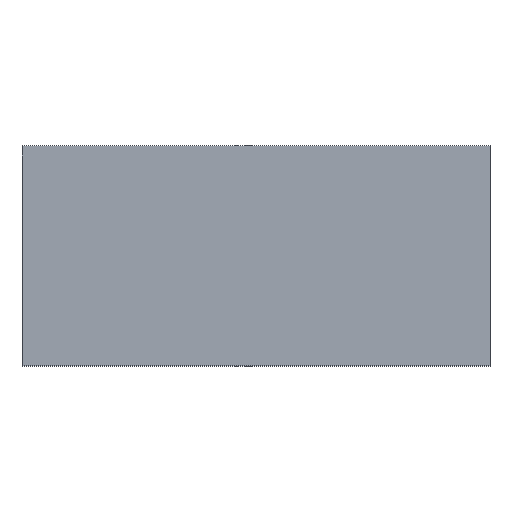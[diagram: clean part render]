
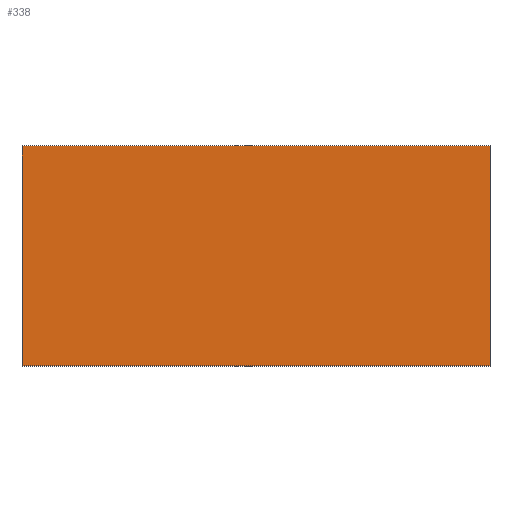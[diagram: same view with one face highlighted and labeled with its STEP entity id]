
A CAD part, top view. The second image highlights one B-rep face of the part: STEP entity #338.
In plain terms, the highlighted planar face has unit normal (0, 0, 1).
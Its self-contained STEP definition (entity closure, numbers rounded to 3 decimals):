
#24 = VERTEX_POINT('',#25);
#25 = CARTESIAN_POINT('',(-3.16,-1.485,1.14));
#32 = PLANE('',#33);
#33 = AXIS2_PLACEMENT_3D('',#34,#35,#36);
#34 = CARTESIAN_POINT('',(-3.16,-1.485,0.));
#35 = DIRECTION('',(1.,0.,-0.));
#36 = DIRECTION('',(0.,0.,1.));
#44 = PLANE('',#45);
#45 = AXIS2_PLACEMENT_3D('',#46,#47,#48);
#46 = CARTESIAN_POINT('',(-3.16,-1.485,0.));
#47 = DIRECTION('',(-0.,1.,0.));
#48 = DIRECTION('',(0.,0.,1.));
#85 = VERTEX_POINT('',#86);
#86 = CARTESIAN_POINT('',(-3.16,1.485,1.14));
#100 = PLANE('',#101);
#101 = AXIS2_PLACEMENT_3D('',#102,#103,#104);
#102 = CARTESIAN_POINT('',(-3.16,1.485,0.));
#103 = DIRECTION('',(-0.,1.,0.));
#104 = DIRECTION('',(0.,0.,1.));
#112 = EDGE_CURVE('',#24,#85,#113,.T.);
#113 = SURFACE_CURVE('',#114,(#118,#125),.PCURVE_S1.);
#114 = LINE('',#115,#116);
#115 = CARTESIAN_POINT('',(-3.16,-1.485,1.14));
#116 = VECTOR('',#117,1.);
#117 = DIRECTION('',(-0.,1.,0.));
#118 = PCURVE('',#32,#119);
#119 = DEFINITIONAL_REPRESENTATION('',(#120),#124);
#120 = LINE('',#121,#122);
#121 = CARTESIAN_POINT('',(1.14,0.));
#122 = VECTOR('',#123,1.);
#123 = DIRECTION('',(0.,-1.));
#124 = ( GEOMETRIC_REPRESENTATION_CONTEXT(2) 
PARAMETRIC_REPRESENTATION_CONTEXT() REPRESENTATION_CONTEXT('2D SPACE',''
  ) );
#125 = PCURVE('',#126,#131);
#126 = PLANE('',#127);
#127 = AXIS2_PLACEMENT_3D('',#128,#129,#130);
#128 = CARTESIAN_POINT('',(-3.16,-1.485,1.14));
#129 = DIRECTION('',(0.,0.,1.));
#130 = DIRECTION('',(1.,0.,-0.));
#131 = DEFINITIONAL_REPRESENTATION('',(#132),#136);
#132 = LINE('',#133,#134);
#133 = CARTESIAN_POINT('',(0.,0.));
#134 = VECTOR('',#135,1.);
#135 = DIRECTION('',(0.,1.));
#136 = ( GEOMETRIC_REPRESENTATION_CONTEXT(2) 
PARAMETRIC_REPRESENTATION_CONTEXT() REPRESENTATION_CONTEXT('2D SPACE',''
  ) );
#144 = VERTEX_POINT('',#145);
#145 = CARTESIAN_POINT('',(3.16,-1.485,1.14));
#152 = PLANE('',#153);
#153 = AXIS2_PLACEMENT_3D('',#154,#155,#156);
#154 = CARTESIAN_POINT('',(3.16,-1.485,0.));
#155 = DIRECTION('',(1.,0.,-0.));
#156 = DIRECTION('',(0.,0.,1.));
#195 = VERTEX_POINT('',#196);
#196 = CARTESIAN_POINT('',(3.16,1.485,1.14));
#217 = EDGE_CURVE('',#144,#195,#218,.T.);
#218 = SURFACE_CURVE('',#219,(#223,#230),.PCURVE_S1.);
#219 = LINE('',#220,#221);
#220 = CARTESIAN_POINT('',(3.16,-1.485,1.14));
#221 = VECTOR('',#222,1.);
#222 = DIRECTION('',(-0.,1.,0.));
#223 = PCURVE('',#152,#224);
#224 = DEFINITIONAL_REPRESENTATION('',(#225),#229);
#225 = LINE('',#226,#227);
#226 = CARTESIAN_POINT('',(1.14,0.));
#227 = VECTOR('',#228,1.);
#228 = DIRECTION('',(0.,-1.));
#229 = ( GEOMETRIC_REPRESENTATION_CONTEXT(2) 
PARAMETRIC_REPRESENTATION_CONTEXT() REPRESENTATION_CONTEXT('2D SPACE',''
  ) );
#230 = PCURVE('',#126,#231);
#231 = DEFINITIONAL_REPRESENTATION('',(#232),#236);
#232 = LINE('',#233,#234);
#233 = CARTESIAN_POINT('',(6.32,0.));
#234 = VECTOR('',#235,1.);
#235 = DIRECTION('',(0.,1.));
#236 = ( GEOMETRIC_REPRESENTATION_CONTEXT(2) 
PARAMETRIC_REPRESENTATION_CONTEXT() REPRESENTATION_CONTEXT('2D SPACE',''
  ) );
#263 = EDGE_CURVE('',#24,#144,#264,.T.);
#264 = SURFACE_CURVE('',#265,(#269,#276),.PCURVE_S1.);
#265 = LINE('',#266,#267);
#266 = CARTESIAN_POINT('',(-3.16,-1.485,1.14));
#267 = VECTOR('',#268,1.);
#268 = DIRECTION('',(1.,0.,-0.));
#269 = PCURVE('',#44,#270);
#270 = DEFINITIONAL_REPRESENTATION('',(#271),#275);
#271 = LINE('',#272,#273);
#272 = CARTESIAN_POINT('',(1.14,0.));
#273 = VECTOR('',#274,1.);
#274 = DIRECTION('',(0.,1.));
#275 = ( GEOMETRIC_REPRESENTATION_CONTEXT(2) 
PARAMETRIC_REPRESENTATION_CONTEXT() REPRESENTATION_CONTEXT('2D SPACE',''
  ) );
#276 = PCURVE('',#126,#277);
#277 = DEFINITIONAL_REPRESENTATION('',(#278),#282);
#278 = LINE('',#279,#280);
#279 = CARTESIAN_POINT('',(0.,0.));
#280 = VECTOR('',#281,1.);
#281 = DIRECTION('',(1.,0.));
#282 = ( GEOMETRIC_REPRESENTATION_CONTEXT(2) 
PARAMETRIC_REPRESENTATION_CONTEXT() REPRESENTATION_CONTEXT('2D SPACE',''
  ) );
#310 = EDGE_CURVE('',#85,#195,#311,.T.);
#311 = SURFACE_CURVE('',#312,(#316,#323),.PCURVE_S1.);
#312 = LINE('',#313,#314);
#313 = CARTESIAN_POINT('',(-3.16,1.485,1.14));
#314 = VECTOR('',#315,1.);
#315 = DIRECTION('',(1.,0.,-0.));
#316 = PCURVE('',#100,#317);
#317 = DEFINITIONAL_REPRESENTATION('',(#318),#322);
#318 = LINE('',#319,#320);
#319 = CARTESIAN_POINT('',(1.14,0.));
#320 = VECTOR('',#321,1.);
#321 = DIRECTION('',(0.,1.));
#322 = ( GEOMETRIC_REPRESENTATION_CONTEXT(2) 
PARAMETRIC_REPRESENTATION_CONTEXT() REPRESENTATION_CONTEXT('2D SPACE',''
  ) );
#323 = PCURVE('',#126,#324);
#324 = DEFINITIONAL_REPRESENTATION('',(#325),#329);
#325 = LINE('',#326,#327);
#326 = CARTESIAN_POINT('',(0.,2.97));
#327 = VECTOR('',#328,1.);
#328 = DIRECTION('',(1.,0.));
#329 = ( GEOMETRIC_REPRESENTATION_CONTEXT(2) 
PARAMETRIC_REPRESENTATION_CONTEXT() REPRESENTATION_CONTEXT('2D SPACE',''
  ) );
#338 = ADVANCED_FACE('',(#339),#126,.T.);
#339 = FACE_BOUND('',#340,.T.);
#340 = EDGE_LOOP('',(#341,#342,#343,#344));
#341 = ORIENTED_EDGE('',*,*,#112,.F.);
#342 = ORIENTED_EDGE('',*,*,#263,.T.);
#343 = ORIENTED_EDGE('',*,*,#217,.T.);
#344 = ORIENTED_EDGE('',*,*,#310,.F.);
